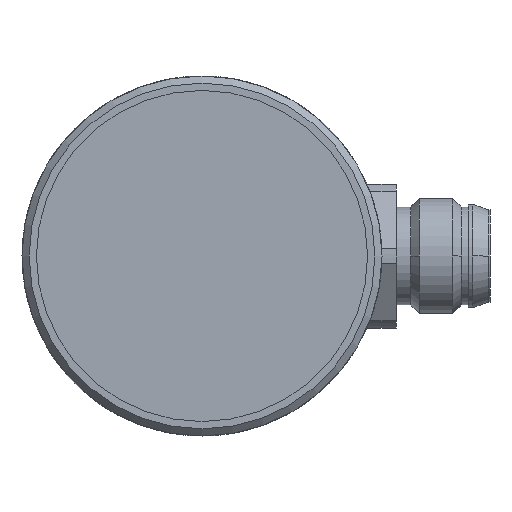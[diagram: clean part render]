
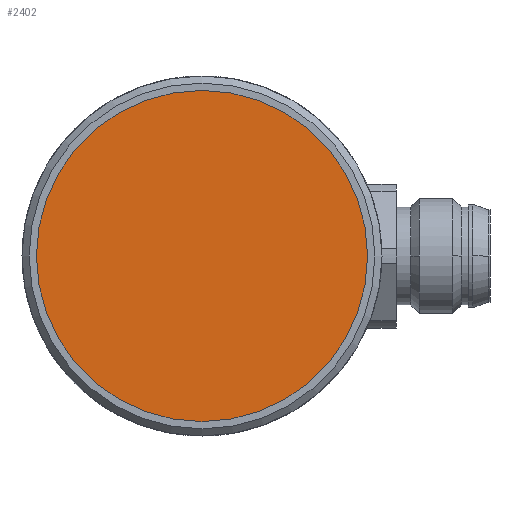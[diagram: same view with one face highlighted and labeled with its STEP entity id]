
A CAD part, left-side view. The second image highlights one B-rep face of the part: STEP entity #2402.
In plain terms, the highlighted planar face has unit normal (-1, 0, 0).
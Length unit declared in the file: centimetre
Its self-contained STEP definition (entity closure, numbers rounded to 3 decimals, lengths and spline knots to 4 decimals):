
#413=CIRCLE('',#2557,1.15);
#622=VERTEX_POINT('',#3749);
#1163=EDGE_CURVE('',#622,#622,#413,.T.);
#1537=ORIENTED_EDGE('',*,*,#1163,.T.);
#2082=EDGE_LOOP('',(#1537));
#2248=FACE_BOUND('',#2082,.T.);
#2402=ADVANCED_FACE('',(#2248),#4222,.F.);
#2557=AXIS2_PLACEMENT_3D('',#3748,#2893,#2894);
#2558=AXIS2_PLACEMENT_3D('',#3750,#2895,$);
#2893=DIRECTION('',(-1.,0.,0.));
#2894=DIRECTION('',(0.,0.,-1.15));
#2895=DIRECTION('',(1.,0.,0.));
#3748=CARTESIAN_POINT('',(-2.9,0.,0.));
#3749=CARTESIAN_POINT('',(-2.9,0.,-1.15));
#3750=CARTESIAN_POINT('',(-2.9,0.,0.));
#4222=PLANE('',#2558);
